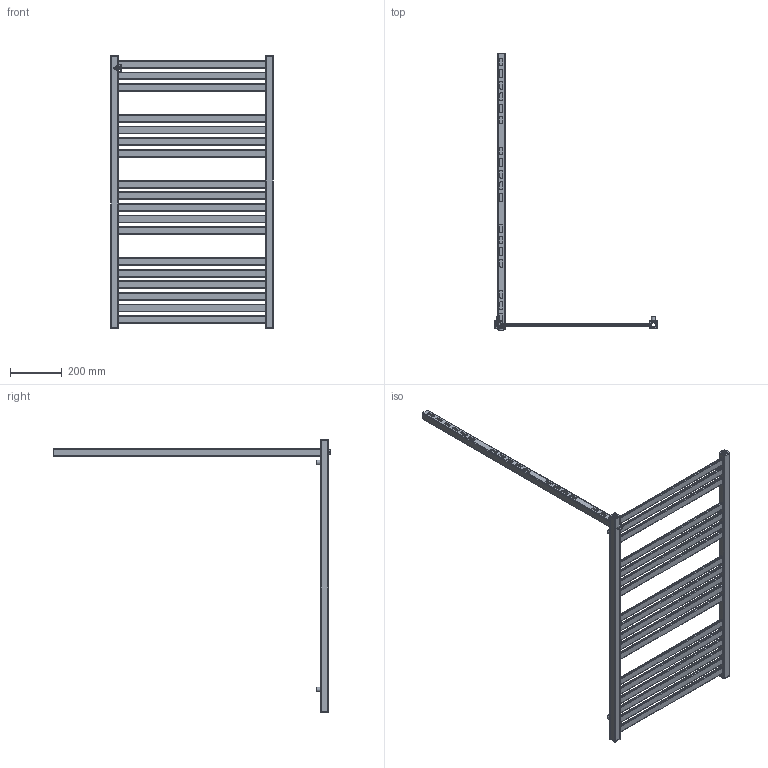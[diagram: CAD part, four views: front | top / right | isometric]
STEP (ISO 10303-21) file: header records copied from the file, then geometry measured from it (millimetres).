
FILE_DESCRIPTION( ( 'Unknown' ), '1' );
FILE_NAME( 'D:/Alplast sp. j/Witryna zespoBu - Projekty/Archiwum/Grzejniki Archiwum/Projekty/STANDARD/AK-EP/AK4-600EP.stp', 'Unknown', ( 'Unknown' ), ( 'Unknown' ), 'PSStep 10.1', 'Unknown', ' ' );
FILE_SCHEMA( ( 'AUTOMOTIVE_DESIGN { 1 0 10303 214 1 1 1 1 }' ) );
Length unit declared in the file: millimetre
Products named in the file (5): Assem1; zaslepka kwadrat otwor; AK4-EPEL; kana³  poziomy 30x10  600; mocowanie
Bounding box: 630 x 1074 x 1060.13 mm (x, y, z)
Volume: 1696714.5 mm3; surface area: 2271676.2 mm2
Topology: 32 solids, 32 shells, 892 faces, 2454 edges, 1636 vertices
Faces by surface type: plane 506, cylinder 376, torus 10
Full cylindrical faces by diameter (mm): 16 x5, 18 x5, 18.631 x5, 23 x5
Entity records: 8602 total; most frequent: DIRECTION 1234, CARTESIAN_POINT 1193, ORIENTED_EDGE 1148, EDGE_CURVE 574, AXIS2_PLACEMENT_3D 427, VERTEX_POINT 386, LINE 380, VECTOR 380
